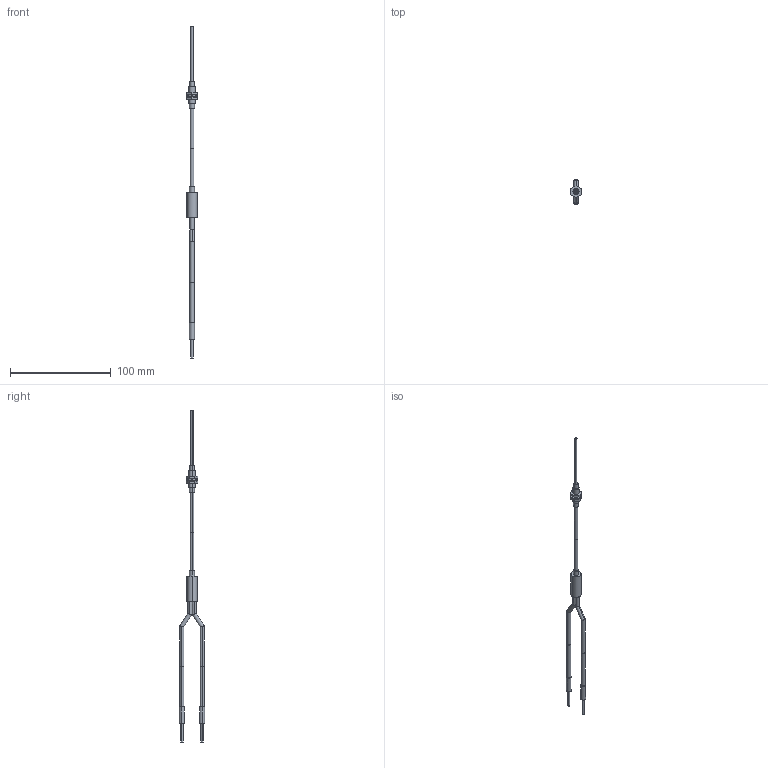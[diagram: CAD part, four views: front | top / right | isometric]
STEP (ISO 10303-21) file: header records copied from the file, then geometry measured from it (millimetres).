
FILE_DESCRIPTION (( 'STEP AP203' ), '1' );
FILE_NAME ('FD-H35-M2S6.STEP', '2005-09-08T01:56:29', ( '' ), ( '' ), 'SwSTEP 2.0', 'SolidWorks 2004073', '' );
FILE_SCHEMA (( 'CONFIG_CONTROL_DESIGN' ));
Length unit declared in the file: millimetre
Products named in the file (1): FD-H35-M2S6
Bounding box: 11 x 25 x 330 mm (x, y, z)
Volume: 7720.5 mm3; surface area: 7144.1 mm2
Topology: 7 solids, 7 shells, 89 faces, 186 edges, 124 vertices
Faces by surface type: cylinder 50, plane 39
Entity records: 2481 total; most frequent: CARTESIAN_POINT 448, DIRECTION 434, ORIENTED_EDGE 372, EDGE_CURVE 186, AXIS2_PLACEMENT_3D 174, VERTEX_POINT 124, EDGE_LOOP 108, ADVANCED_FACE 89
